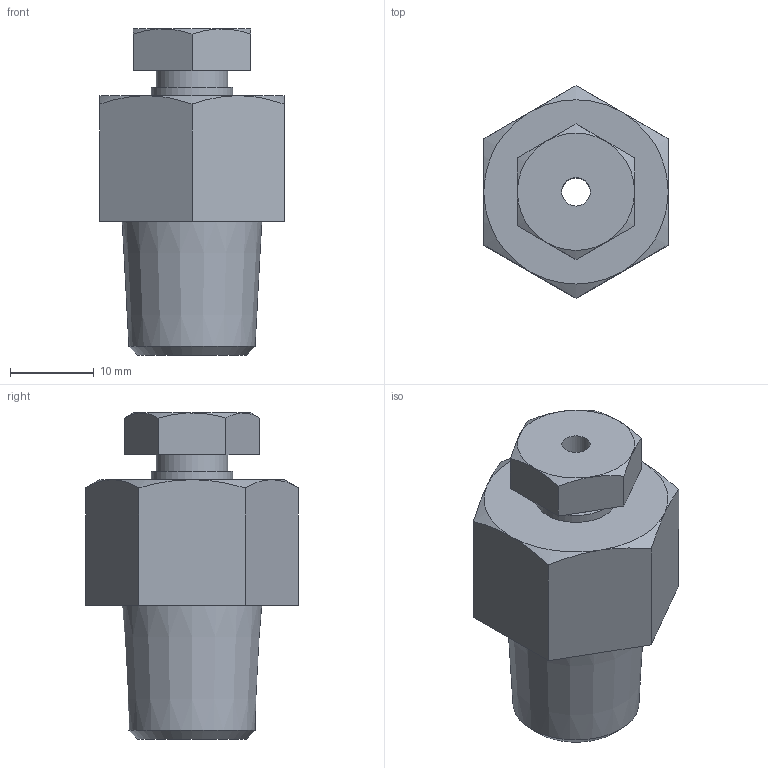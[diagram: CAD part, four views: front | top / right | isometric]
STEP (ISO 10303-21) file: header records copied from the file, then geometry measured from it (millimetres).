
FILE_DESCRIPTION (( 'STEP AP203' ), '1' );
FILE_NAME ('YICF-8(0).STEP', '2025-08-22T04:25:33', ( '' ), ( '' ), 'SwSTEP 2.0', 'SolidWorks 2024', '' );
FILE_SCHEMA (( 'CONFIG_CONTROL_DESIGN' ));
Length unit declared in the file: millimetre
Products named in the file (1): YICF-8(0)
Bounding box: 22 x 25.4 x 39 mm (x, y, z)
Volume: 10077.7 mm3; surface area: 3629.7 mm2
Topology: 1 solids, 1 shells, 30 faces, 72 edges, 48 vertices
Faces by surface type: plane 18, cone 9, cylinder 3
Full cylindrical faces by diameter (mm): 3.4 x1, 8.57 x1, 9.73 x1
Entity records: 1003 total; most frequent: CARTESIAN_POINT 275, ORIENTED_EDGE 128, DIRECTION 124, EDGE_CURVE 64, AXIS2_PLACEMENT_3D 47, VERTEX_POINT 46, EDGE_LOOP 42, FACE_OUTER_BOUND 33
